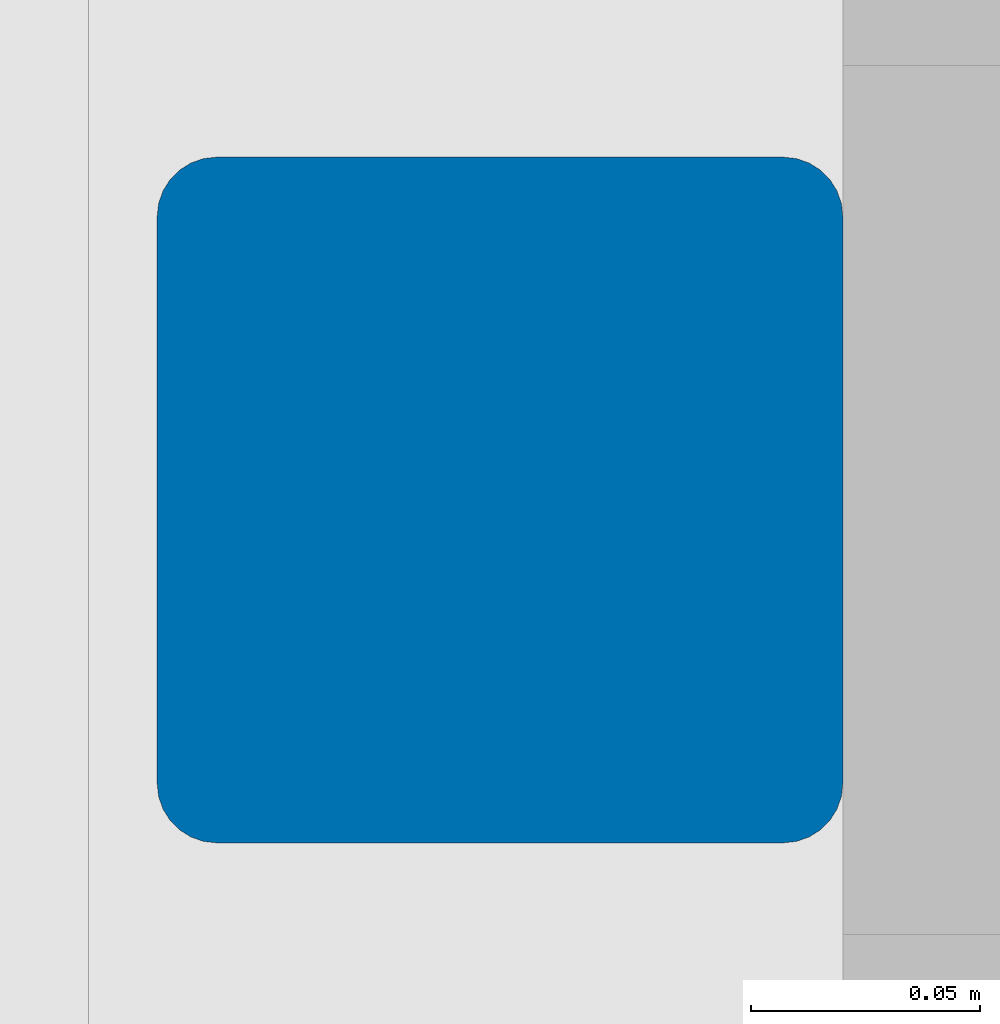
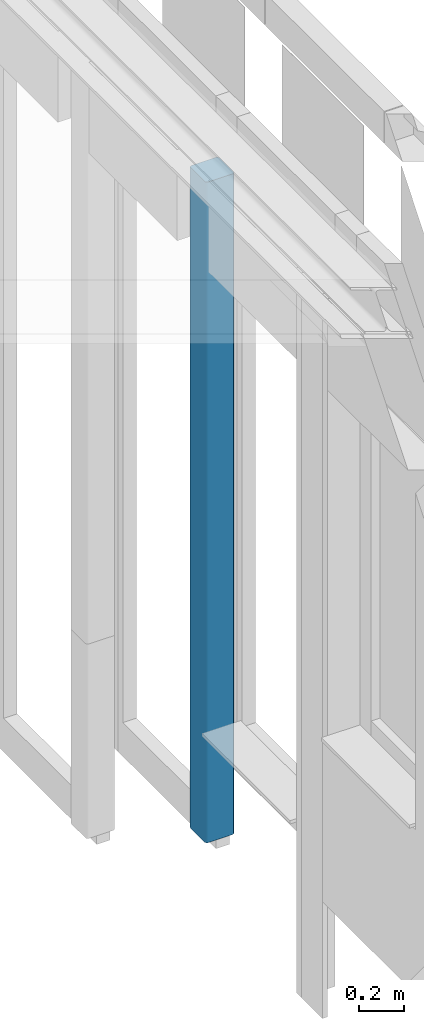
# One storey, part 2 of 128: 1 column.
"""IFC2X3 building model written with IfcOpenShell, lengths in millimetres."""

from ifc_helpers import new_model, entity, si_unit, converted_unit, derived_unit, direction, frame, frame_2d, origin, place, context, subcontext, project, spatial, polyline, circle_curve, parameter, trimmed, segment, composite_curve, outline, extrude, source, transform, mapped, material, material_list, type_object, type_shapes, element, save


model = new_model("IFC2X3")

# Units and contexts
model_context = context("Model", 3, precision=0.01, world=origin(), true_north=direction((6.123031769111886e-17, 1.0)))
body_context = subcontext(model_context, "Body", "Model", "MODEL_VIEW")
ifc_project = project(units=[si_unit("LENGTHUNIT", "METRE", prefix="MILLI"), si_unit("AREAUNIT", "SQUARE_METRE"), si_unit("VOLUMEUNIT", "CUBIC_METRE"), converted_unit("PLANEANGLEUNIT", "DEGREE", entity("IfcRatioMeasure", 0.017453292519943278), si_unit("PLANEANGLEUNIT", "RADIAN"), dimensions=[0, 0, 0, 0, 0, 0, 0]), si_unit("MASSUNIT", "GRAM", prefix="KILO"), derived_unit("MASSDENSITYUNIT", [(si_unit("MASSUNIT", "GRAM", prefix="KILO"), 1), (si_unit("LENGTHUNIT", "METRE"), -3)]), derived_unit("IONCONCENTRATIONUNIT", [(si_unit("MASSUNIT", "GRAM", prefix="KILO"), 1), (si_unit("LENGTHUNIT", "METRE"), -3)]), derived_unit("MOMENTOFINERTIAUNIT", [(si_unit("LENGTHUNIT", "METRE"), 4)]), si_unit("TIMEUNIT", "SECOND"), si_unit("FREQUENCYUNIT", "HERTZ"), si_unit("THERMODYNAMICTEMPERATUREUNIT", "DEGREE_CELSIUS"), derived_unit("THERMALTRANSMITTANCEUNIT", [(si_unit("MASSUNIT", "GRAM", prefix="KILO"), 1), (si_unit("THERMODYNAMICTEMPERATUREUNIT", "KELVIN"), -1), (si_unit("TIMEUNIT", "SECOND"), -3)]), derived_unit("THERMALCONDUCTANCEUNIT", [(si_unit("MASSUNIT", "GRAM", prefix="KILO"), 1), (si_unit("THERMODYNAMICTEMPERATUREUNIT", "KELVIN"), -1), (si_unit("TIMEUNIT", "SECOND"), -3), (si_unit("LENGTHUNIT", "METRE"), 1)]), derived_unit("VOLUMETRICFLOWRATEUNIT", [(si_unit("LENGTHUNIT", "METRE"), 3), (si_unit("TIMEUNIT", "SECOND"), -1)]), derived_unit("MASSFLOWRATEUNIT", [(si_unit("MASSUNIT", "GRAM", prefix="KILO"), 1), (si_unit("TIMEUNIT", "SECOND"), -1)]), derived_unit("ROTATIONALFREQUENCYUNIT", [(si_unit("TIMEUNIT", "SECOND"), -1)]), si_unit("ELECTRICCURRENTUNIT", "AMPERE"), si_unit("ELECTRICVOLTAGEUNIT", "VOLT"), si_unit("POWERUNIT", "WATT"), si_unit("FORCEUNIT", "NEWTON", prefix="KILO"), si_unit("ILLUMINANCEUNIT", "LUX"), si_unit("LUMINOUSFLUXUNIT", "LUMEN"), si_unit("LUMINOUSINTENSITYUNIT", "CANDELA"), derived_unit("USERDEFINED", [(si_unit("MASSUNIT", "GRAM", prefix="KILO"), -1), (si_unit("LENGTHUNIT", "METRE"), -2), (si_unit("TIMEUNIT", "SECOND"), 3), (si_unit("LUMINOUSFLUXUNIT", "LUMEN"), 1)]), derived_unit("USERDEFINED", [(si_unit("MASSUNIT", "GRAM", prefix="KILO"), 1), (si_unit("TIMEUNIT", "SECOND"), -3), (si_unit("LENGTHUNIT", "METRE"), 3), (si_unit("ELECTRICCURRENTUNIT", "AMPERE"), -2)]), derived_unit("SOUNDPOWERUNIT", [(si_unit("MASSUNIT", "GRAM", prefix="KILO"), 1), (si_unit("TIMEUNIT", "SECOND"), -3), (si_unit("LENGTHUNIT", "METRE"), 2)]), derived_unit("SOUNDPRESSUREUNIT", [(si_unit("MASSUNIT", "GRAM", prefix="KILO"), 1), (si_unit("LENGTHUNIT", "METRE"), -1), (si_unit("TIMEUNIT", "SECOND"), -2)]), derived_unit("LINEARVELOCITYUNIT", [(si_unit("LENGTHUNIT", "METRE"), 1), (si_unit("TIMEUNIT", "SECOND"), -1)]), si_unit("PRESSUREUNIT", "PASCAL"), derived_unit("USERDEFINED", [(si_unit("MASSUNIT", "GRAM", prefix="KILO"), 1), (si_unit("LENGTHUNIT", "METRE"), -2), (si_unit("TIMEUNIT", "SECOND"), -2)]), derived_unit("LINEARFORCEUNIT", [(si_unit("MASSUNIT", "GRAM", prefix="KILO"), 1), (si_unit("TIMEUNIT", "SECOND"), -2)]), derived_unit("PLANARFORCEUNIT", [(si_unit("MASSUNIT", "GRAM", prefix="KILO"), 1), (si_unit("LENGTHUNIT", "METRE"), -1), (si_unit("TIMEUNIT", "SECOND"), -2)]), derived_unit("SPECIFICHEATCAPACITYUNIT", [(si_unit("THERMODYNAMICTEMPERATUREUNIT", "KELVIN"), -1), (si_unit("LENGTHUNIT", "METRE"), 2), (si_unit("TIMEUNIT", "SECOND"), -2)]), derived_unit("HEATINGVALUEUNIT", [(si_unit("LENGTHUNIT", "METRE"), 2), (si_unit("TIMEUNIT", "SECOND"), -2)]), derived_unit("VAPORPERMEABILITYUNIT", [(si_unit("LENGTHUNIT", "METRE"), -1), (si_unit("TIMEUNIT", "SECOND"), 1)]), derived_unit("DYNAMICVISCOSITYUNIT", [(si_unit("MASSUNIT", "GRAM", prefix="KILO"), 1), (si_unit("TIMEUNIT", "SECOND"), -1), (si_unit("LENGTHUNIT", "METRE"), -1)]), derived_unit("THERMALEXPANSIONCOEFFICIENTUNIT", [(si_unit("THERMODYNAMICTEMPERATUREUNIT", "KELVIN"), -1)]), derived_unit("MODULUSOFELASTICITYUNIT", [(si_unit("MASSUNIT", "GRAM", prefix="KILO"), 1), (si_unit("LENGTHUNIT", "METRE"), -1), (si_unit("TIMEUNIT", "SECOND"), -2)]), derived_unit("ISOTHERMALMOISTURECAPACITYUNIT", [(si_unit("LENGTHUNIT", "METRE"), 3), (si_unit("MASSUNIT", "GRAM", prefix="KILO"), -1)]), derived_unit("MOISTUREDIFFUSIVITYUNIT", [(si_unit("TIMEUNIT", "SECOND"), -1), (si_unit("LENGTHUNIT", "METRE"), 2)])], contexts=[model_context])

# Site, building, storey
site_placement = place(None, frame((0.0, 300.0, 0.0)))
site = spatial("IfcSite", under=ifc_project, at=site_placement, Name="<Kadastrale nummers>", CompositionType="ELEMENT")
building_placement = place(site_placement, origin())
building = spatial("IfcBuilding", under=site, at=building_placement, CompositionType="ELEMENT")
storey_placement = place(building_placement, frame((0.0, 0.0, 3560.0000331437)))
storey = spatial("IfcBuildingStorey", under=building, at=storey_placement, Name="01 eerste verdieping", CompositionType="ELEMENT", Elevation=3560.0000331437)

# Column
ifc_material_1 = material(Name="f2_beton")
ifc_material_2 = material(Name="h2_staal")
ifc_material_list = material_list([ifc_material_1, ifc_material_2])
column_type = type_object("IfcColumnType", Name="NLRS_28_SCO_TLB_kolom koker betongevuld_gen_ASN:kolom betongevuld K150x150x6.3", PredefinedType="COLUMN", material=ifc_material_list)
shared_shape = source(origin(), body_context, "Body", "SweptSolid", [
    extrude(outline(composite_curve([segment(polyline([(-63.70000000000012, -68.69999999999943), (63.699999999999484, -68.69999999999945)]), True, "CONTINUOUS"), segment(trimmed(circle_curve(frame_2d((63.69999999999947, -63.69999999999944), x_axis=(-1.0, 0.0)), 4.999999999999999), [parameter(90.00000000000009)], [parameter(179.9999999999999)], True, "PARAMETER"), True, "CONTINUOUS"), segment(polyline([(68.69999999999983, -63.69999999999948), (68.7000000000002, 63.69999999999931)]), True, "CONTINUOUS"), segment(trimmed(circle_curve(frame_2d((63.70000000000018, 63.69999999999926), x_axis=(-1.0, 0.0)), 4.999999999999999), [parameter(180.0000000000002)], [parameter(269.9999999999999)], True, "PARAMETER"), True, "CONTINUOUS"), segment(polyline([(63.70000000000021, 68.69999999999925), (-63.6999999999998, 68.69999999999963)]), True, "CONTINUOUS"), segment(trimmed(circle_curve(frame_2d((-63.69999999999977, 63.699999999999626), x_axis=(-1.0, 0.0)), 4.999999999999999), [parameter(270.0)], [parameter(359.9999999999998)], True, "PARAMETER"), True, "CONTINUOUS"), segment(polyline([(-68.69999999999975, 63.69999999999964), (-68.70000000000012, -63.69999999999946)]), True, "CONTINUOUS"), segment(trimmed(circle_curve(frame_2d((-63.70000000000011, -63.69999999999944), x_axis=(-1.0, 0.0)), 4.999999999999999), [parameter(0.0)], [parameter(90.00000000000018)], True, "PARAMETER"), True, "CONTINUOUS")], self_intersect=False)), frame((0.0, 0.0, 3210.000035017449), z_axis=(0.0, 0.0, 1.0), x_axis=(-1.0, 0.0, 0.0)), (0.0, 0.0, 1.0), 3620.0000205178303),
    extrude(outline(composite_curve([segment(trimmed(circle_curve(frame_2d((62.0, 62.0), x_axis=(1.0, 0.0)), 13.000000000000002), [parameter(359.9999999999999)], [parameter(89.99999999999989)], True, "PARAMETER"), True, "CONTINUOUS"), segment(polyline([(62.0, 75.0), (-62.0, 75.0)]), True, "CONTINUOUS"), segment(trimmed(circle_curve(frame_2d((-62.0, 62.0), x_axis=(1.0, 0.0)), 13.000000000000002), [parameter(90.00000000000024)], [parameter(180.0000000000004)], True, "PARAMETER"), True, "CONTINUOUS"), segment(polyline([(-75.0, 62.0), (-75.0, -62.0)]), True, "CONTINUOUS"), segment(trimmed(circle_curve(frame_2d((-62.0, -62.0), x_axis=(1.0, 0.0)), 13.000000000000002), [parameter(180.0)], [parameter(269.9999999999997)], True, "PARAMETER"), True, "CONTINUOUS"), segment(polyline([(-62.0, -75.0), (62.0, -75.0)]), True, "CONTINUOUS"), segment(trimmed(circle_curve(frame_2d((62.0, -62.0), x_axis=(1.0, 0.0)), 13.000000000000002), [parameter(270.00000000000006)], [parameter(3.053332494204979e-13)], True, "PARAMETER"), True, "CONTINUOUS"), segment(polyline([(75.0, -62.0), (75.0, 62.0)]), True, "CONTINUOUS")], self_intersect=False), holes=[composite_curve([segment(polyline([(-62.0, 68.69999999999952), (62.0, 68.69999999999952)]), True, "CONTINUOUS"), segment(trimmed(circle_curve(frame_2d((62.0, 62.0), x_axis=(1.0, 0.0)), 6.700000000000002), [parameter(359.99999999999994)], [parameter(90.00000000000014)], True, "PARAMETER"), False, "CONTINUOUS"), segment(polyline([(68.69999999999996, 62.0), (68.69999999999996, -62.0)]), True, "CONTINUOUS"), segment(trimmed(circle_curve(frame_2d((62.0, -62.0), x_axis=(1.0, 0.0)), 6.700000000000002), [parameter(269.9999999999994)], [parameter(359.9999999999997)], True, "PARAMETER"), False, "CONTINUOUS"), segment(polyline([(62.0, -68.69999999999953), (-62.0, -68.69999999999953)]), True, "CONTINUOUS"), segment(trimmed(circle_curve(frame_2d((-62.0, -62.0), x_axis=(1.0, 0.0)), 6.700000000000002), [parameter(180.00000000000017)], [parameter(269.9999999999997)], True, "PARAMETER"), False, "CONTINUOUS"), segment(polyline([(-68.69999999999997, -62.0), (-68.69999999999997, 62.0)]), True, "CONTINUOUS"), segment(trimmed(circle_curve(frame_2d((-62.0, 62.0), x_axis=(1.0, 0.0)), 6.700000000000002), [parameter(89.99999999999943)], [parameter(179.99999999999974)], True, "PARAMETER"), False, "CONTINUOUS")], self_intersect=False)]), frame((0.0, 0.0, 3210.000035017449), z_axis=(0.0, 0.0, 1.0), x_axis=(-1.0, 0.0, 0.0)), (0.0, 0.0, 1.0), 3620.0000205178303),
])
type_shapes(column_type, [shared_shape])
column_placement = place(storey_placement, frame((48600.0, 34110.0, -3560.0000331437), z_axis=(0.0, 0.0, 1.0), x_axis=(0.0, -1.0, 0.0)))
element("IfcColumn", 1, at=column_placement, inside=storey, type_object=column_type, material=ifc_material_list, Name="NLRS_28_SCO_TLB_kolom koker betongevuld_gen_ASN:kolom betongevuld K150x150x6.3", ObjectType="NLRS_28_SCO_TLB_kolom koker betongevuld_gen_ASN:kolom betongevuld K150x150x6.3", context=body_context, shape_type="MappedRepresentation", body=[
    mapped(shared_shape, transform((0.0, 0.0, 0.0), scale=1.0)),
])

save(model, "model.ifc")
